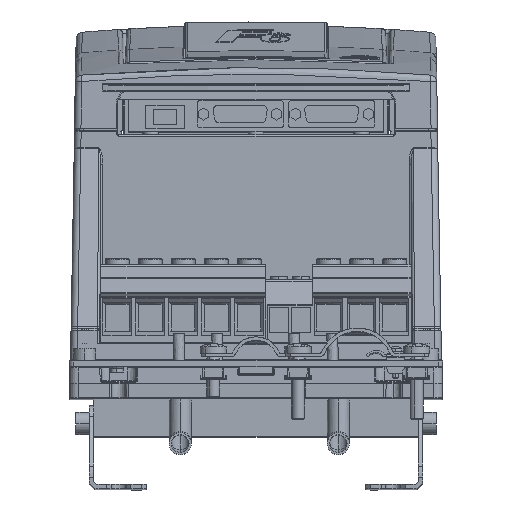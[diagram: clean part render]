
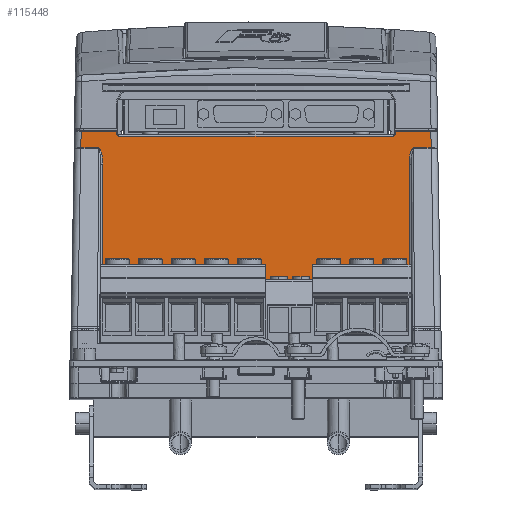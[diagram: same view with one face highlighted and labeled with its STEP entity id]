
A CAD part, top view. The second image highlights one B-rep face of the part: STEP entity #115448.
In plain terms, the highlighted planar face has unit normal (0, 0, 1).
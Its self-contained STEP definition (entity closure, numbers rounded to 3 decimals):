
#1240 = ORIENTED_EDGE ( 'NONE', *, *, #82245, .F. ) ;
#2375 = ORIENTED_EDGE ( 'NONE', *, *, #61662, .T. ) ;
#3081 = CARTESIAN_POINT ( 'NONE',  ( -71.729, 41.234, 124. ) ) ;
#3192 = AXIS2_PLACEMENT_3D ( 'NONE', #15992, #34914, #44337 ) ;
#3569 = DIRECTION ( 'NONE',  ( 0., 0., -1. ) ) ;
#4096 = CARTESIAN_POINT ( 'NONE',  ( -70.573, 41.234, 124. ) ) ;
#4588 = VERTEX_POINT ( 'NONE', #76115 ) ;
#5920 = ORIENTED_EDGE ( 'NONE', *, *, #59535, .T. ) ;
#7299 =( BOUNDED_CURVE ( )  B_SPLINE_CURVE ( 3, ( #33529, #50057, #22893, #42947 ),
 .UNSPECIFIED., .F., .T. ) 
 B_SPLINE_CURVE_WITH_KNOTS ( ( 4, 4 ),
 ( 4.73, 6.284 ),
 .UNSPECIFIED. ) 
 CURVE ( )  GEOMETRIC_REPRESENTATION_ITEM ( )  RATIONAL_B_SPLINE_CURVE ( ( 1., 0.809, 0.809, 1. ) ) 
 REPRESENTATION_ITEM ( '' )  );
#10342 = VECTOR ( 'NONE', #41094, 1000. ) ;
#11359 = CARTESIAN_POINT ( 'NONE',  ( 69.763, -47.4, 124. ) ) ;
#11757 = VECTOR ( 'NONE', #50419, 1000. ) ;
#15481 = VERTEX_POINT ( 'NONE', #46824 ) ;
#15992 = CARTESIAN_POINT ( 'NONE',  ( -62.5, 47.6, 124. ) ) ;
#16467 = ORIENTED_EDGE ( 'NONE', *, *, #64465, .F. ) ;
#17477 = AXIS2_PLACEMENT_3D ( 'NONE', #57600, #93451, #111125 ) ;
#17569 = VERTEX_POINT ( 'NONE', #11359 ) ;
#19001 = VECTOR ( 'NONE', #30097, 1000. ) ;
#19342 = ORIENTED_EDGE ( 'NONE', *, *, #94546, .T. ) ;
#19659 = EDGE_LOOP ( 'NONE', ( #16467, #36325, #19342, #114257, #51003, #57247, #36571, #1240, #85640, #107274, #101741, #2375, #5920, #86235, #95179, #75733 ) ) ;
#20057 = LINE ( 'NONE', #81946, #19001 ) ;
#21262 = CIRCLE ( 'NONE', #17477, 1. ) ;
#22893 = CARTESIAN_POINT ( 'NONE',  ( 70.573, 41.234, 124. ) ) ;
#23439 = LINE ( 'NONE', #94141, #78641 ) ;
#23773 = CARTESIAN_POINT ( 'NONE',  ( 69.763, 89.215, 124. ) ) ;
#27142 = CARTESIAN_POINT ( 'NONE',  ( -62.5, 46.6, 124. ) ) ;
#28831 = LINE ( 'NONE', #54203, #81117 ) ;
#29194 = VERTEX_POINT ( 'NONE', #48700 ) ;
#29337 = DIRECTION ( 'NONE',  ( -1., 0., 0. ) ) ;
#29574 = CARTESIAN_POINT ( 'NONE',  ( -84.5, 89.215, 124. ) ) ;
#30097 = DIRECTION ( 'NONE',  ( 0., -1., 0. ) ) ;
#33529 = CARTESIAN_POINT ( 'NONE',  ( 69.763, 33.786, 124. ) ) ;
#34914 = DIRECTION ( 'NONE',  ( 0., 0., 1. ) ) ;
#34971 = VECTOR ( 'NONE', #103171, 1000. ) ;
#36325 = ORIENTED_EDGE ( 'NONE', *, *, #41310, .T. ) ;
#36333 = CARTESIAN_POINT ( 'NONE',  ( 63.5, 48.6, 124. ) ) ;
#36504 = AXIS2_PLACEMENT_3D ( 'NONE', #29574, #3569, #39575 ) ;
#36571 = ORIENTED_EDGE ( 'NONE', *, *, #71883, .T. ) ;
#38544 = CARTESIAN_POINT ( 'NONE',  ( -79.765, 41.234, 124. ) ) ;
#39575 = DIRECTION ( 'NONE',  ( -1., 0., 0. ) ) ;
#39775 = VERTEX_POINT ( 'NONE', #27142 ) ;
#41094 = DIRECTION ( 'NONE',  ( -1., 0., 0. ) ) ;
#41310 = EDGE_CURVE ( 'NONE', #17569, #4588, #113912, .T. ) ;
#42071 = EDGE_CURVE ( 'NONE', #82142, #39775, #69922, .T. ) ;
#42947 = CARTESIAN_POINT ( 'NONE',  ( 71.729, 41.234, 124. ) ) ;
#43723 =( BOUNDED_CURVE ( )  B_SPLINE_CURVE ( 3, ( #58398, #4096, #85435, #94235 ),
 .UNSPECIFIED., .F., .T. ) 
 B_SPLINE_CURVE_WITH_KNOTS ( ( 4, 4 ),
 ( 6.282, 7.836 ),
 .UNSPECIFIED. ) 
 CURVE ( )  GEOMETRIC_REPRESENTATION_ITEM ( )  RATIONAL_B_SPLINE_CURVE ( ( 1., 0.809, 0.809, 1. ) ) 
 REPRESENTATION_ITEM ( '' )  );
#44337 = DIRECTION ( 'NONE',  ( -1., 0., 0. ) ) ;
#46215 = VERTEX_POINT ( 'NONE', #73191 ) ;
#46824 = CARTESIAN_POINT ( 'NONE',  ( -79.633, 48.6, 124. ) ) ;
#48700 = CARTESIAN_POINT ( 'NONE',  ( 79.765, 41.234, 124. ) ) ;
#49004 = EDGE_CURVE ( 'NONE', #29194, #113434, #28831, .T. ) ;
#50057 = CARTESIAN_POINT ( 'NONE',  ( 69.763, 38.164, 124. ) ) ;
#50220 = LINE ( 'NONE', #86112, #34971 ) ;
#50419 = DIRECTION ( 'NONE',  ( 0., 1., 0. ) ) ;
#50772 = VECTOR ( 'NONE', #72179, 1000. ) ;
#51003 = ORIENTED_EDGE ( 'NONE', *, *, #49004, .T. ) ;
#52858 = LINE ( 'NONE', #113506, #60554 ) ;
#53361 = CARTESIAN_POINT ( 'NONE',  ( -84.5, -47.4, 124. ) ) ;
#54203 = CARTESIAN_POINT ( 'NONE',  ( 78.857, 92.127, 124. ) ) ;
#54257 = EDGE_CURVE ( 'NONE', #54778, #97810, #96567, .T. ) ;
#54778 = VERTEX_POINT ( 'NONE', #38544 ) ;
#54784 = DIRECTION ( 'NONE',  ( -0.018, 1., 0. ) ) ;
#57176 = VECTOR ( 'NONE', #94251, 1000. ) ;
#57247 = ORIENTED_EDGE ( 'NONE', *, *, #107709, .T. ) ;
#57600 = CARTESIAN_POINT ( 'NONE',  ( 62.5, 47.6, 124. ) ) ;
#57801 = CARTESIAN_POINT ( 'NONE',  ( -63.5, 47.6, 124. ) ) ;
#58398 = CARTESIAN_POINT ( 'NONE',  ( -71.729, 41.234, 124. ) ) ;
#58730 = LINE ( 'NONE', #53361, #50772 ) ;
#59535 = EDGE_CURVE ( 'NONE', #15481, #54778, #23439, .T. ) ;
#60142 = CARTESIAN_POINT ( 'NONE',  ( -71.729, 41.234, 124. ) ) ;
#60554 = VECTOR ( 'NONE', #95814, 1000. ) ;
#61662 = EDGE_CURVE ( 'NONE', #93383, #15481, #109996, .T. ) ;
#62336 = VERTEX_POINT ( 'NONE', #76195 ) ;
#64465 = EDGE_CURVE ( 'NONE', #17569, #46215, #58730, .T. ) ;
#64616 = VERTEX_POINT ( 'NONE', #109214 ) ;
#67451 = DIRECTION ( 'NONE',  ( 0., 1., 0. ) ) ;
#68477 = DIRECTION ( 'NONE',  ( -1., 0., 0. ) ) ;
#69221 = CARTESIAN_POINT ( 'NONE',  ( 71.729, 41.234, 124. ) ) ;
#69412 = DIRECTION ( 'NONE',  ( -0.018, -1., 0. ) ) ;
#69922 = LINE ( 'NONE', #85843, #10342 ) ;
#70484 = VECTOR ( 'NONE', #67451, 1000. ) ;
#71883 = EDGE_CURVE ( 'NONE', #88005, #62336, #50220, .T. ) ;
#72179 = DIRECTION ( 'NONE',  ( -1., 0., 0. ) ) ;
#73191 = CARTESIAN_POINT ( 'NONE',  ( -69.763, -47.4, 124. ) ) ;
#75030 = EDGE_CURVE ( 'NONE', #100973, #39775, #82287, .T. ) ;
#75733 = ORIENTED_EDGE ( 'NONE', *, *, #78774, .T. ) ;
#76115 = CARTESIAN_POINT ( 'NONE',  ( 69.763, 33.786, 124. ) ) ;
#76195 = CARTESIAN_POINT ( 'NONE',  ( 63.5, 47.6, 124. ) ) ;
#76927 = CARTESIAN_POINT ( 'NONE',  ( -63.5, 89.215, 124. ) ) ;
#78509 = VECTOR ( 'NONE', #29337, 1000. ) ;
#78641 = VECTOR ( 'NONE', #69412, 1000. ) ;
#78774 = EDGE_CURVE ( 'NONE', #64616, #46215, #20057, .T. ) ;
#79221 = VERTEX_POINT ( 'NONE', #69221 ) ;
#80610 = CARTESIAN_POINT ( 'NONE',  ( 62.5, 46.6, 124. ) ) ;
#81117 = VECTOR ( 'NONE', #54784, 1000. ) ;
#81946 = CARTESIAN_POINT ( 'NONE',  ( -69.763, 89.215, 124. ) ) ;
#82142 = VERTEX_POINT ( 'NONE', #80610 ) ;
#82245 = EDGE_CURVE ( 'NONE', #82142, #62336, #21262, .T. ) ;
#82287 = CIRCLE ( 'NONE', #3192, 1. ) ;
#83510 = CARTESIAN_POINT ( 'NONE',  ( -84.5, 48.6, 124. ) ) ;
#84313 = PLANE ( 'NONE',  #36504 ) ;
#85146 = EDGE_CURVE ( 'NONE', #79221, #29194, #52858, .T. ) ;
#85435 = CARTESIAN_POINT ( 'NONE',  ( -69.763, 38.164, 124. ) ) ;
#85640 = ORIENTED_EDGE ( 'NONE', *, *, #42071, .T. ) ;
#85843 = CARTESIAN_POINT ( 'NONE',  ( 49.191, 46.6, 124. ) ) ;
#86112 = CARTESIAN_POINT ( 'NONE',  ( 63.5, 89.215, 124. ) ) ;
#86235 = ORIENTED_EDGE ( 'NONE', *, *, #54257, .T. ) ;
#86253 = EDGE_CURVE ( 'NONE', #100973, #93383, #103955, .T. ) ;
#88005 = VERTEX_POINT ( 'NONE', #36333 ) ;
#93383 = VERTEX_POINT ( 'NONE', #106582 ) ;
#93451 = DIRECTION ( 'NONE',  ( 0., 0., 1. ) ) ;
#94141 = CARTESIAN_POINT ( 'NONE',  ( -78.911, 89.115, 124. ) ) ;
#94235 = CARTESIAN_POINT ( 'NONE',  ( -69.763, 33.786, 124. ) ) ;
#94251 = DIRECTION ( 'NONE',  ( 1., 0., 0. ) ) ;
#94546 = EDGE_CURVE ( 'NONE', #4588, #79221, #7299, .T. ) ;
#95179 = ORIENTED_EDGE ( 'NONE', *, *, #101083, .T. ) ;
#95814 = DIRECTION ( 'NONE',  ( 1., 0., 0. ) ) ;
#96567 = LINE ( 'NONE', #60142, #57176 ) ;
#97810 = VERTEX_POINT ( 'NONE', #3081 ) ;
#100973 = VERTEX_POINT ( 'NONE', #57801 ) ;
#101083 = EDGE_CURVE ( 'NONE', #97810, #64616, #43723, .T. ) ;
#101741 = ORIENTED_EDGE ( 'NONE', *, *, #86253, .T. ) ;
#101794 = CARTESIAN_POINT ( 'NONE',  ( 79.633, 48.6, 124. ) ) ;
#103171 = DIRECTION ( 'NONE',  ( 0., -1., 0. ) ) ;
#103955 = LINE ( 'NONE', #76927, #11757 ) ;
#104918 = CARTESIAN_POINT ( 'NONE',  ( -84.5, 48.6, 124. ) ) ;
#106582 = CARTESIAN_POINT ( 'NONE',  ( -63.5, 48.6, 124. ) ) ;
#106953 = VECTOR ( 'NONE', #68477, 1000. ) ;
#107274 = ORIENTED_EDGE ( 'NONE', *, *, #75030, .F. ) ;
#107709 = EDGE_CURVE ( 'NONE', #113434, #88005, #113180, .T. ) ;
#109214 = CARTESIAN_POINT ( 'NONE',  ( -69.763, 33.786, 124. ) ) ;
#109996 = LINE ( 'NONE', #83510, #78509 ) ;
#110821 = FACE_OUTER_BOUND ( 'NONE', #19659, .T. ) ;
#111125 = DIRECTION ( 'NONE',  ( -1., 0., 0. ) ) ;
#113180 = LINE ( 'NONE', #104918, #106953 ) ;
#113434 = VERTEX_POINT ( 'NONE', #101794 ) ;
#113506 = CARTESIAN_POINT ( 'NONE',  ( 79.767, 41.234, 124. ) ) ;
#113912 = LINE ( 'NONE', #23773, #70484 ) ;
#114257 = ORIENTED_EDGE ( 'NONE', *, *, #85146, .T. ) ;
#115448 = ADVANCED_FACE ( 'NONE', ( #110821 ), #84313, .F. ) ;
